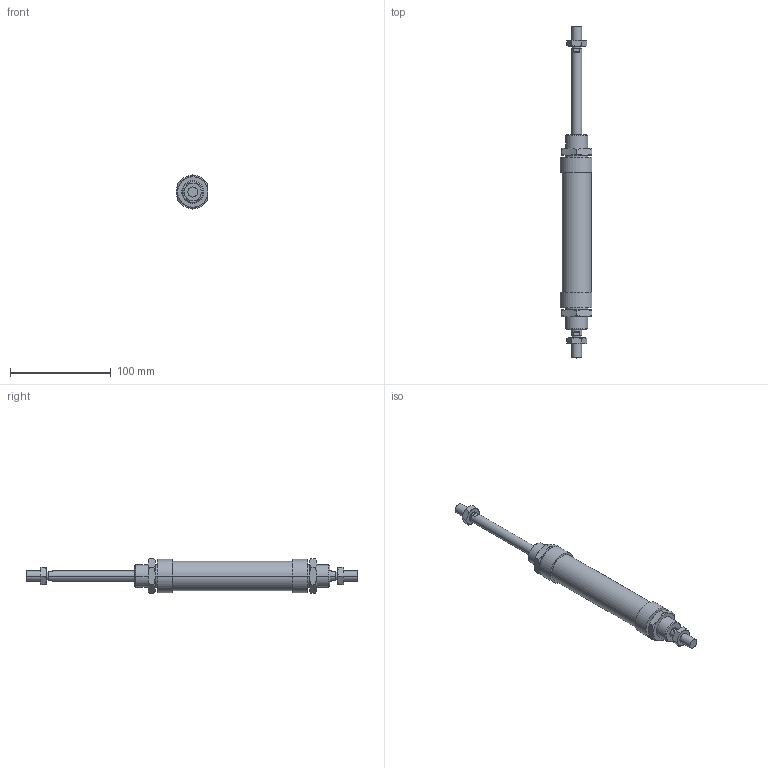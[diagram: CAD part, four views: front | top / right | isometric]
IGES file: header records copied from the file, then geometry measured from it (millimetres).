
Global section: file name: No Iges File Name specified; native system: AutoDesk Inventor R6.0; preprocessor: AutoDesk Inventor Iges Exporter R6.0; author: No Author specified; organization: No Organization specified; date: 20030403.072452; units: millimetre
Bounding box: 31.5 x 329 x 34.64 mm (x, y, z)
Volume: 138139 mm3; surface area: 41492.6 mm2
Topology: 6 solids, 6 shells, 184 faces, 396 edges, 232 vertices
Faces by surface type: cone 68, plane 60, bspline 30, cylinder 20, revolution 6
